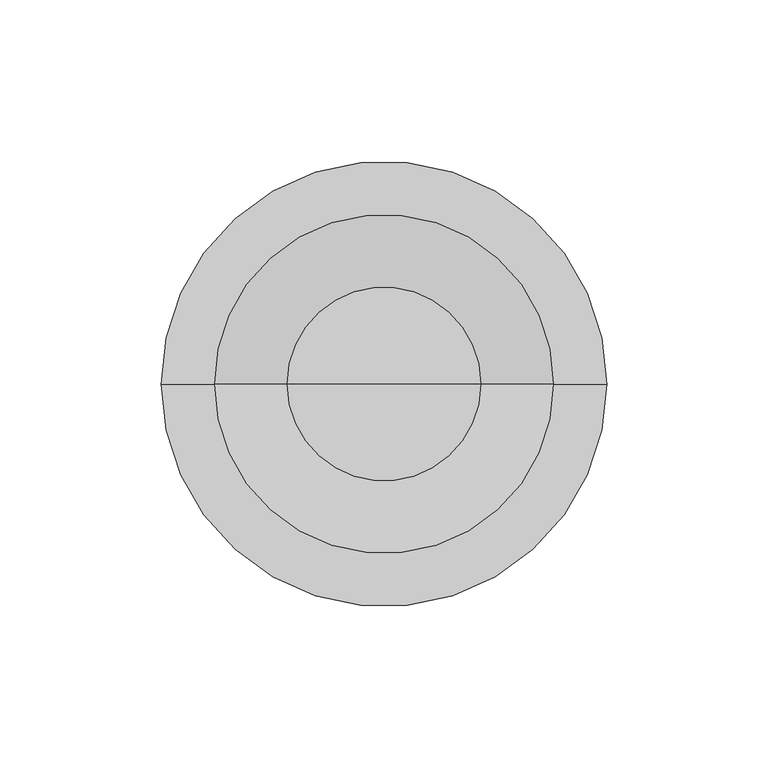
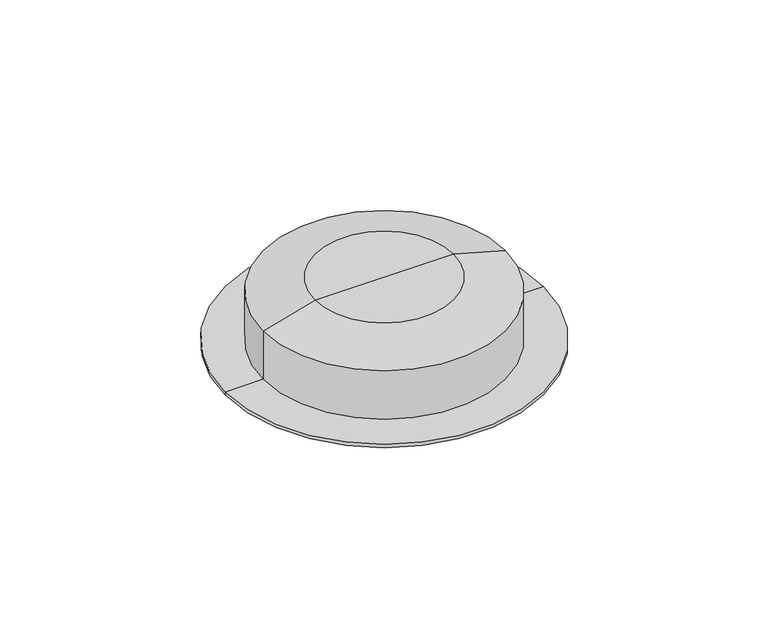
"""IFC4 building model written with IfcOpenShell, lengths in millimetres: light fixture geometry, GENILED_Светильник светодиодный_Сейлинг : Сейлинг 10Вт 3000К 90Ra IP54."""

from ifc_helpers import new_model, si_unit, frame, origin, place, context, project, spatial, polyline, circle_curve, source, transform, mapped, element, save
from ifc_brep_helpers import plane_surface, cylinder_surface, revolved_surface, advanced_brep


def light_fixture_e28e19d9(model_context):
    return source(origin(), model_context, "Body", "AdvancedBrep", [
        advanced_brep(
        [(30.0, 0.0, 28.5), (-30.0, 0.0, 28.5), (0.0, 0.0, 28.5), (52.5, 0.0, 22.2), (-52.5, 0.0, 22.2), (52.5, 0.0, 0.0), (-52.5, 0.0, 0.0), (69.0, 0.0, 0.0), (-69.0, 0.0, 0.0), (69.0, 0.0, -1.5), (-69.0, 0.0, -1.5), (0.0, 0.0, -1.5)],
        [
            (0, 1, circle_curve(frame((0.0, 0.0, 28.5), z_axis=(0.0, 0.0, 1.0), x_axis=(-1.0, 0.0, 0.0)), 30.0)),
            (1, 2),
            (2, 0),
            (1, 0, circle_curve(frame((0.0, 0.0, 28.5), z_axis=(0.0, 0.0, 1.0), x_axis=(-1.0, 0.0, 0.0)), 30.0)),
            (3, 4, circle_curve(frame((0.0, 0.0, 22.2), z_axis=(0.0, 0.0, 1.0), x_axis=(-1.0, 0.0, 0.0)), 52.5)),
            (4, 1),
            (0, 3),
            (4, 3, circle_curve(frame((0.0, 0.0, 22.2), z_axis=(0.0, 0.0, 1.0), x_axis=(-1.0, 0.0, 0.0)), 52.5)),
            (5, 6, circle_curve(frame((0.0, 0.0, 0.0), z_axis=(0.0, 0.0, 1.0), x_axis=(-1.0, 0.0, 0.0)), 52.5)),
            (6, 4),
            (3, 5),
            (6, 5, circle_curve(frame((0.0, 0.0, 0.0), z_axis=(0.0, 0.0, 1.0), x_axis=(-1.0, 0.0, 0.0)), 52.5)),
            (7, 8, circle_curve(frame((0.0, 0.0, 0.0), z_axis=(0.0, 0.0, 1.0), x_axis=(-1.0, 0.0, 0.0)), 69.0)),
            (8, 6),
            (5, 7),
            (8, 7, circle_curve(frame((0.0, 0.0, 0.0), z_axis=(0.0, 0.0, 1.0), x_axis=(-1.0, 0.0, 0.0)), 69.0)),
            (9, 10, circle_curve(frame((0.0, 0.0, -1.5), z_axis=(0.0, 0.0, 1.0), x_axis=(-1.0, 0.0, 0.0)), 69.0)),
            (10, 8),
            (7, 9),
            (10, 9, circle_curve(frame((0.0, 0.0, -1.5), z_axis=(0.0, 0.0, 1.0), x_axis=(-1.0, 0.0, 0.0)), 69.0)),
            (11, 10),
            (9, 11),
        ],
        [
            plane_surface(frame((0.0, 0.0, 28.5), z_axis=(0.0, 0.0, 1.0), x_axis=(-1.0, 0.0, 0.0))),
            revolved_surface(polyline([(-30.0, 0.0, 28.5), (-52.5, 0.0, 22.2)]), (0.0, 0.0, 68.5), (0.0, 0.0, -1.0)),
            cylinder_surface(frame((0.0, 0.0, 68.5), z_axis=(0.0, 0.0, -1.0), x_axis=(-1.0, 0.0, 0.0)), 52.5),
            plane_surface(frame((0.0, 0.0, 0.0), z_axis=(0.0, 0.0, 1.0), x_axis=(-1.0, 0.0, 0.0))),
            cylinder_surface(frame((0.0, 0.0, 68.5), z_axis=(0.0, 0.0, -1.0), x_axis=(-1.0, 0.0, 0.0)), 69.0),
            plane_surface(frame((0.0, 0.0, -1.5), z_axis=(0.0, 0.0, -1.0), x_axis=(-1.0, 0.0, 0.0))),
        ],
        [
            (0, [[1, 2, 3]]),
            (0, [[4, -3, -2]]),
            (1, [[5, 6, -1, 7]]),
            (1, [[8, -7, -4, -6]]),
            (2, [[9, 10, -5, 11]]),
            (2, [[12, -11, -8, -10]]),
            (3, [[13, 14, -9, 15]]),
            (3, [[16, -15, -12, -14]]),
            (4, [[17, 18, -13, 19]]),
            (4, [[20, -19, -16, -18]]),
            (5, [[21, -17, 22]]),
            (5, [[-22, -20, -21]]),
        ],
    ),
    ])


if __name__ == "__main__":
    model = new_model("IFC4")
    model_context = context("Model", 3, world=origin())
    ifc_project = project(units=[si_unit("LENGTHUNIT", "METRE", prefix="MILLI")], contexts=[model_context])
    site = spatial("IfcSite", under=ifc_project)
    building = spatial("IfcBuilding", under=site)
    placement = place(None, origin())
    light_fixture_shape = light_fixture_e28e19d9(model_context)
    element("IfcLightFixture", 1, ObjectType="GENILED_Светильник светодиодный_Сейлинг : Сейлинг 10Вт 3000К 90Ra IP54", at=placement, inside=building, context=model_context, shape_type="MappedRepresentation", body=[
        mapped(light_fixture_shape, transform((0.0, 0.0, 0.0), x_axis=(1.0, 0.0, 0.0), y_axis=(0.0, 1.0, 0.0), z_axis=(0.0, 0.0, 1.0))),
    ])
    save(model, "model.ifc")
